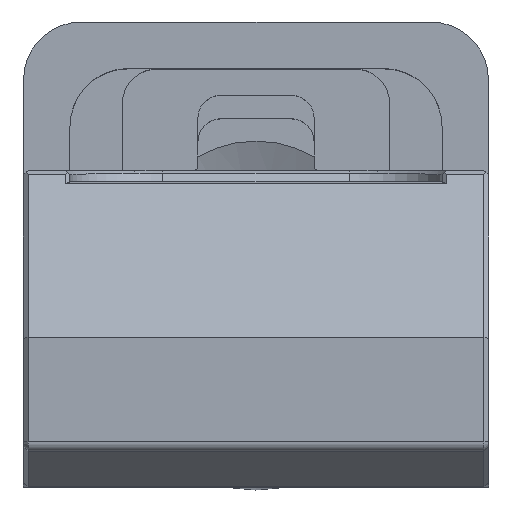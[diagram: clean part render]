
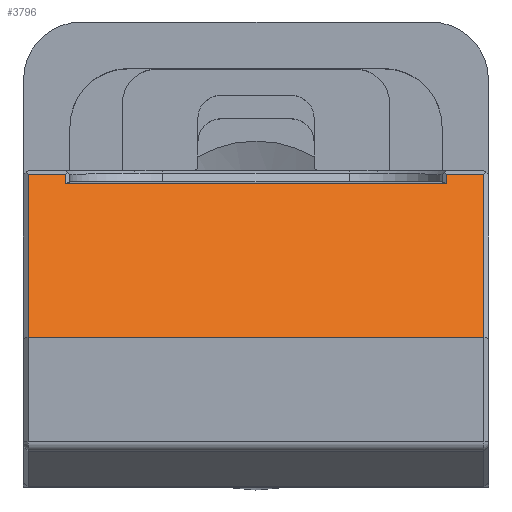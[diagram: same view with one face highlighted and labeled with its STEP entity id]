
A CAD part, top view. The second image highlights one B-rep face of the part: STEP entity #3796.
In plain terms, the highlighted planar face has unit normal (0, 0.5, 0.866).
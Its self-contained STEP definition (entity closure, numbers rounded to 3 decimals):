
#111 = EDGE_CURVE ( 'NONE', #7109, #1178, #4284, .T. ) ;
#241 = EDGE_CURVE ( 'NONE', #6429, #7109, #6563, .T. ) ;
#341 = VECTOR ( 'NONE', #4570, 1000. ) ;
#344 = DIRECTION ( 'NONE',  ( -1., 0., 0. ) ) ;
#491 = CARTESIAN_POINT ( 'NONE',  ( -23.905, 92.012, 23.727 ) ) ;
#851 = ORIENTED_EDGE ( 'NONE', *, *, #4942, .T. ) ;
#860 = VECTOR ( 'NONE', #344, 1000. ) ;
#1011 = VECTOR ( 'NONE', #7950, 1000. ) ;
#1081 = ORIENTED_EDGE ( 'NONE', *, *, #7727, .T. ) ;
#1110 = VERTEX_POINT ( 'NONE', #7352 ) ;
#1178 = VERTEX_POINT ( 'NONE', #3170 ) ;
#1475 = CARTESIAN_POINT ( 'NONE',  ( -5.905, 99.625, 19.331 ) ) ;
#1502 = PLANE ( 'NONE',  #6439 ) ;
#1562 = VECTOR ( 'NONE', #7675, 1000. ) ;
#1910 = DIRECTION ( 'NONE',  ( 0., -0.866, 0.5 ) ) ;
#1975 = LINE ( 'NONE', #1475, #341 ) ;
#2005 = CARTESIAN_POINT ( 'NONE',  ( -23.905, 99.625, 19.331 ) ) ;
#2094 = EDGE_CURVE ( 'NONE', #1110, #7908, #7017, .T. ) ;
#2104 = CARTESIAN_POINT ( 'NONE',  ( -23.905, 92.605, 23.385 ) ) ;
#2127 = CARTESIAN_POINT ( 'NONE',  ( -14.105, 92.012, 23.727 ) ) ;
#2398 = CARTESIAN_POINT ( 'NONE',  ( -14.105, 92.605, 23.385 ) ) ;
#2850 = CARTESIAN_POINT ( 'NONE',  ( -4.305, 92.012, 23.727 ) ) ;
#2930 = CARTESIAN_POINT ( 'NONE',  ( -5.905, 99.216, 19.568 ) ) ;
#2940 = ORIENTED_EDGE ( 'NONE', *, *, #6882, .T. ) ;
#3120 = VERTEX_POINT ( 'NONE', #5168 ) ;
#3170 = CARTESIAN_POINT ( 'NONE',  ( -4.305, 99.625, 19.331 ) ) ;
#3294 = EDGE_CURVE ( 'NONE', #5925, #6429, #4853, .T. ) ;
#3371 = DIRECTION ( 'NONE',  ( 0., 0.866, -0.5 ) ) ;
#3381 = VECTOR ( 'NONE', #1910, 1000. ) ;
#3636 = DIRECTION ( 'NONE',  ( 1., 0., 0. ) ) ;
#3721 = EDGE_LOOP ( 'NONE', ( #7095, #2940, #5431, #6136, #6534, #7697, #1081, #851 ) ) ;
#3776 = EDGE_CURVE ( 'NONE', #1178, #3120, #1975, .T. ) ;
#3777 = VECTOR ( 'NONE', #4654, 1000. ) ;
#3796 = ADVANCED_FACE ( 'NONE', ( #6669 ), #1502, .F. ) ;
#4002 = CARTESIAN_POINT ( 'NONE',  ( -22.305, 99.625, 19.331 ) ) ;
#4021 = CARTESIAN_POINT ( 'NONE',  ( -14.105, 99.216, 19.568 ) ) ;
#4034 = CARTESIAN_POINT ( 'NONE',  ( -22.305, 99.599, 19.347 ) ) ;
#4122 = LINE ( 'NONE', #4021, #860 ) ;
#4195 = CARTESIAN_POINT ( 'NONE',  ( -4.305, 92.605, 23.385 ) ) ;
#4284 = LINE ( 'NONE', #2850, #1011 ) ;
#4570 = DIRECTION ( 'NONE',  ( -1., 0., 0. ) ) ;
#4654 = DIRECTION ( 'NONE',  ( 0., 0.866, -0.5 ) ) ;
#4853 = LINE ( 'NONE', #491, #7943 ) ;
#4942 = EDGE_CURVE ( 'NONE', #5660, #1110, #4122, .T. ) ;
#5003 = LINE ( 'NONE', #6795, #3381 ) ;
#5168 = CARTESIAN_POINT ( 'NONE',  ( -5.905, 99.625, 19.331 ) ) ;
#5431 = ORIENTED_EDGE ( 'NONE', *, *, #3294, .T. ) ;
#5660 = VERTEX_POINT ( 'NONE', #2930 ) ;
#5819 = CARTESIAN_POINT ( 'NONE',  ( -23.905, 99.625, 19.331 ) ) ;
#5925 = VERTEX_POINT ( 'NONE', #2005 ) ;
#5975 = DIRECTION ( 'NONE',  ( 0., -0.866, 0.5 ) ) ;
#6136 = ORIENTED_EDGE ( 'NONE', *, *, #241, .T. ) ;
#6429 = VERTEX_POINT ( 'NONE', #2104 ) ;
#6439 = AXIS2_PLACEMENT_3D ( 'NONE', #2127, #7036, #3371 ) ;
#6464 = LINE ( 'NONE', #5819, #1562 ) ;
#6534 = ORIENTED_EDGE ( 'NONE', *, *, #111, .T. ) ;
#6563 = LINE ( 'NONE', #2398, #7818 ) ;
#6669 = FACE_OUTER_BOUND ( 'NONE', #3721, .T. ) ;
#6795 = CARTESIAN_POINT ( 'NONE',  ( -5.905, 92.012, 23.727 ) ) ;
#6882 = EDGE_CURVE ( 'NONE', #7908, #5925, #6464, .T. ) ;
#7017 = LINE ( 'NONE', #4034, #3777 ) ;
#7036 = DIRECTION ( 'NONE',  ( 0., -0.5, -0.866 ) ) ;
#7095 = ORIENTED_EDGE ( 'NONE', *, *, #2094, .T. ) ;
#7109 = VERTEX_POINT ( 'NONE', #4195 ) ;
#7352 = CARTESIAN_POINT ( 'NONE',  ( -22.305, 99.216, 19.568 ) ) ;
#7675 = DIRECTION ( 'NONE',  ( -1., 0., 0. ) ) ;
#7697 = ORIENTED_EDGE ( 'NONE', *, *, #3776, .T. ) ;
#7727 = EDGE_CURVE ( 'NONE', #3120, #5660, #5003, .T. ) ;
#7818 = VECTOR ( 'NONE', #3636, 1000. ) ;
#7908 = VERTEX_POINT ( 'NONE', #4002 ) ;
#7943 = VECTOR ( 'NONE', #5975, 1000. ) ;
#7950 = DIRECTION ( 'NONE',  ( 0., 0.866, -0.5 ) ) ;
